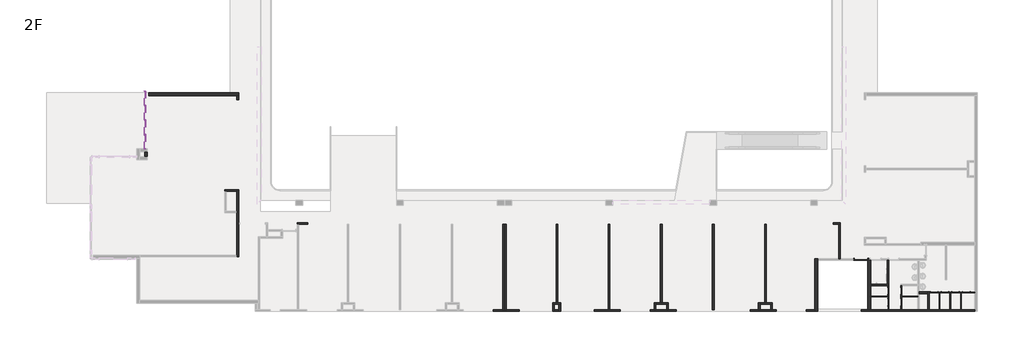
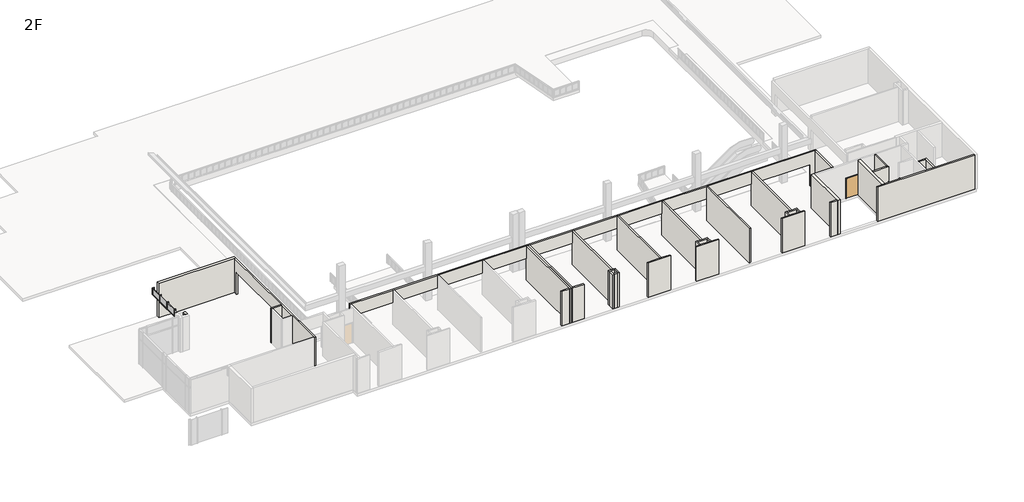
# One storey, part 2 of 6: 44 walls, 9 doors, 9 members, 4 plates.
"""IFC4 building model written with IfcOpenShell, lengths in millimetres."""

from ifc_helpers import new_model, si_unit, frame, origin, place, context, project, spatial, polyline, outline, extrude, faceted_brep, transform, mapped, element, save
from components import m_single_flush_d_1200x2150_085a39eb, m_single_flush_d_600x2100_toilet_partition_8216d307, rectangular_mullion_50_x_150mm_6588f46c, rectangular_mullion_50_x_150mm_0d3281e4, rectangular_mullion_50_x_150mm_457f9466, rectangular_mullion_50_x_150mm_2a846207, rectangular_mullion_50_x_150mm_ab7a2645, system_panel_glazed_67b39806, system_panel_glazed_db628170

model = new_model("IFC4")

# Units and contexts
model_context = context("Model", 3, world=origin())
ifc_project = project(units=[si_unit("LENGTHUNIT", "METRE", prefix="MILLI")], contexts=[model_context])

# Site, building, storey
site = spatial("IfcSite", under=ifc_project)
building = spatial("IfcBuilding", under=site)
storey = spatial("IfcBuildingStorey", under=building, Name="2F", Elevation=8100.0)

# Doors
placement = place(None, origin())
m_single_flush_d_1200x2150_shape = m_single_flush_d_1200x2150_085a39eb(model_context)
element("IfcDoor", 1, ObjectType="M_Single-Flush : D-1200x2150", at=placement, inside=storey, context=model_context, shape_type="MappedRepresentation", body=[
    mapped(m_single_flush_d_1200x2150_shape, transform((32662.4134101, -21228.6148653, 8100.0), x_axis=(1.0, 0.0, 0.0), y_axis=(0.0, 1.0, 0.0), z_axis=(0.0, 0.0, 1.0))),
])
m_single_flush_d_600x2100_toilet_partition_shape = m_single_flush_d_600x2100_toilet_partition_8216d307(model_context)
element("IfcDoor", 2, ObjectType="M_Single-Flush : D-600x2100-toilet-partition", at=placement, inside=storey, context=model_context, shape_type="MappedRepresentation", body=[
    mapped(m_single_flush_d_600x2100_toilet_partition_shape, transform((39137.4134101, -24152.6148653, 8100.0), x_axis=(-1.0, 0.0, 0.0), y_axis=(0.0, -1.0, 0.0), z_axis=(0.0, 0.0, 1.0))),
])
element("IfcDoor", 3, ObjectType="M_Single-Flush : D-600x2100-toilet-partition", at=placement, inside=storey, context=model_context, shape_type="MappedRepresentation", body=[
    mapped(m_single_flush_d_600x2100_toilet_partition_shape, transform((40087.4134101, -24152.6148653, 8100.0), x_axis=(-1.0, 0.0, 0.0), y_axis=(0.0, -1.0, 0.0), z_axis=(0.0, 0.0, 1.0))),
])
element("IfcDoor", 4, ObjectType="M_Single-Flush : D-600x2100-toilet-partition", at=placement, inside=storey, context=model_context, shape_type="MappedRepresentation", body=[
    mapped(m_single_flush_d_600x2100_toilet_partition_shape, transform((41037.4134101, -24152.6148653, 8100.0), x_axis=(-1.0, 0.0, 0.0), y_axis=(0.0, -1.0, 0.0), z_axis=(0.0, 0.0, 1.0))),
])
element("IfcDoor", 5, ObjectType="M_Single-Flush : D-600x2100-toilet-partition", at=placement, inside=storey, context=model_context, shape_type="MappedRepresentation", body=[
    mapped(m_single_flush_d_600x2100_toilet_partition_shape, transform((41987.4134101, -24152.6148653, 8100.0), x_axis=(-1.0, 0.0, 0.0), y_axis=(0.0, -1.0, 0.0), z_axis=(0.0, 0.0, 1.0))),
])
element("IfcDoor", 6, ObjectType="M_Single-Flush : D-600x2100-toilet-partition", at=placement, inside=storey, context=model_context, shape_type="MappedRepresentation", body=[
    mapped(m_single_flush_d_600x2100_toilet_partition_shape, transform((36217.4134101, -24027.6148653, 8100.0), x_axis=(0.0, -1.0, 0.0), y_axis=(1.0, 0.0, 0.0), z_axis=(0.0, 0.0, 1.0))),
])
element("IfcDoor", 7, ObjectType="M_Single-Flush : D-600x2100-toilet-partition", at=placement, inside=storey, context=model_context, shape_type="MappedRepresentation", body=[
    mapped(m_single_flush_d_600x2100_toilet_partition_shape, transform((36217.4134101, -25027.6148653, 8100.0), x_axis=(0.0, -1.0, 0.0), y_axis=(1.0, 0.0, 0.0), z_axis=(0.0, 0.0, 1.0))),
])
element("IfcDoor", 8, ObjectType="M_Single-Flush : D-600x2100-toilet-partition", at=placement, inside=storey, context=model_context, shape_type="MappedRepresentation", body=[
    mapped(m_single_flush_d_600x2100_toilet_partition_shape, transform((35082.4134101, -24027.6148653, 8100.0), x_axis=(0.0, 1.0, 0.0), y_axis=(-1.0, 0.0, 0.0), z_axis=(0.0, 0.0, 1.0))),
])
element("IfcDoor", 9, ObjectType="M_Single-Flush : D-600x2100-toilet-partition", at=placement, inside=storey, context=model_context, shape_type="MappedRepresentation", body=[
    mapped(m_single_flush_d_600x2100_toilet_partition_shape, transform((35082.4134101, -25027.6148653, 8100.0), x_axis=(0.0, 1.0, 0.0), y_axis=(-1.0, 0.0, 0.0), z_axis=(0.0, 0.0, 1.0))),
])

# Members
rectangular_mullion_50_x_150mm_shape = rectangular_mullion_50_x_150mm_6588f46c(model_context)
element("IfcMember", 10, ObjectType="Rectangular Mullion : 50 x 150mm", at=placement, inside=storey, context=model_context, shape_type="MappedRepresentation", body=[
    mapped(rectangular_mullion_50_x_150mm_shape, transform((-30812.5865899, -11451.1148653, 10500.0), x_axis=(0.0, -1.0, 0.0), y_axis=(1.0, 0.0, 0.0), z_axis=(0.0, 0.0, 1.0))),
])
rectangular_mullion_50_x_150mm_2_shape = rectangular_mullion_50_x_150mm_0d3281e4(model_context)
element("IfcMember", 11, ObjectType="Rectangular Mullion : 50 x 150mm", at=placement, inside=storey, context=model_context, shape_type="MappedRepresentation", body=[
    mapped(rectangular_mullion_50_x_150mm_2_shape, transform((-30812.5865899, -6272.6148653, 10500.0), x_axis=(0.0, 1.0, 0.0), y_axis=(1.0, 0.0, 0.0), z_axis=(0.0, 0.0, -1.0))),
])
rectangular_mullion_50_x_150mm_3_shape = rectangular_mullion_50_x_150mm_457f9466(model_context)
element("IfcMember", 12, ObjectType="Rectangular Mullion : 50 x 150mm", at=placement, inside=storey, context=model_context, shape_type="MappedRepresentation", body=[
    mapped(rectangular_mullion_50_x_150mm_3_shape, transform((-30812.5865899, -10181.4898653, 10500.0), x_axis=(0.0, 1.0, 0.0), y_axis=(1.0, 0.0, 0.0), z_axis=(0.0, 0.0, -1.0))),
])
element("IfcMember", 13, ObjectType="Rectangular Mullion : 50 x 150mm", at=placement, inside=storey, context=model_context, shape_type="MappedRepresentation", body=[
    mapped(rectangular_mullion_50_x_150mm_3_shape, transform((-30812.5865899, -8886.8648653, 10500.0), x_axis=(0.0, 1.0, 0.0), y_axis=(1.0, 0.0, 0.0), z_axis=(0.0, 0.0, -1.0))),
])
element("IfcMember", 14, ObjectType="Rectangular Mullion : 50 x 150mm", at=placement, inside=storey, context=model_context, shape_type="MappedRepresentation", body=[
    mapped(rectangular_mullion_50_x_150mm_3_shape, transform((-30812.5865899, -7592.2398653, 10500.0), x_axis=(0.0, 1.0, 0.0), y_axis=(1.0, 0.0, 0.0), z_axis=(0.0, 0.0, -1.0))),
])
rectangular_mullion_50_x_150mm_4_shape = rectangular_mullion_50_x_150mm_2a846207(model_context)
element("IfcMember", 15, ObjectType="Rectangular Mullion : 50 x 150mm", at=placement, inside=storey, context=model_context, shape_type="MappedRepresentation", body=[
    mapped(rectangular_mullion_50_x_150mm_4_shape, transform((-30812.5865899, -8911.8648653, 10500.0), x_axis=(0.0, 0.0, 1.0), y_axis=(1.0, 0.0, 0.0), z_axis=(0.0, 1.0, 0.0))),
])
element("IfcMember", 16, ObjectType="Rectangular Mullion : 50 x 150mm", at=placement, inside=storey, context=model_context, shape_type="MappedRepresentation", body=[
    mapped(rectangular_mullion_50_x_150mm_4_shape, transform((-30812.5865899, -7617.2398653, 10500.0), x_axis=(0.0, 0.0, 1.0), y_axis=(1.0, 0.0, 0.0), z_axis=(0.0, 1.0, 0.0))),
])
element("IfcMember", 17, ObjectType="Rectangular Mullion : 50 x 150mm", at=placement, inside=storey, context=model_context, shape_type="MappedRepresentation", body=[
    mapped(rectangular_mullion_50_x_150mm_4_shape, transform((-30812.5865899, -6322.6148653, 10500.0), x_axis=(0.0, 0.0, 1.0), y_axis=(1.0, 0.0, 0.0), z_axis=(0.0, 1.0, 0.0))),
])
rectangular_mullion_50_x_150mm_5_shape = rectangular_mullion_50_x_150mm_ab7a2645(model_context)
element("IfcMember", 18, ObjectType="Rectangular Mullion : 50 x 150mm", at=placement, inside=storey, context=model_context, shape_type="MappedRepresentation", body=[
    mapped(rectangular_mullion_50_x_150mm_5_shape, transform((-30812.5865899, -10206.4898653, 10500.0), x_axis=(0.0, 0.0, 1.0), y_axis=(1.0, 0.0, 0.0), z_axis=(0.0, 1.0, 0.0))),
])

# Plates
system_panel_glazed_shape = system_panel_glazed_67b39806(model_context)
element("IfcPlate", 19, ObjectType="System Panel : Glazed", at=placement, inside=storey, context=model_context, shape_type="MappedRepresentation", body=[
    mapped(system_panel_glazed_shape, transform((-30812.5865899, -10803.8023653, 10525.0), x_axis=(0.0, 1.0, 0.0), y_axis=(-1.0, 0.0, 0.0), z_axis=(0.0, 0.0, 1.0))),
])
system_panel_glazed_2_shape = system_panel_glazed_db628170(model_context)
element("IfcPlate", 20, ObjectType="System Panel : Glazed", at=placement, inside=storey, context=model_context, shape_type="MappedRepresentation", body=[
    mapped(system_panel_glazed_2_shape, transform((-30812.5865899, -9534.1773653, 10525.0), x_axis=(0.0, 1.0, 0.0), y_axis=(-1.0, 0.0, 0.0), z_axis=(0.0, 0.0, 1.0))),
])
element("IfcPlate", 21, ObjectType="System Panel : Glazed", at=placement, inside=storey, context=model_context, shape_type="MappedRepresentation", body=[
    mapped(system_panel_glazed_2_shape, transform((-30812.5865899, -8239.5523653, 10525.0), x_axis=(0.0, 1.0, 0.0), y_axis=(-1.0, 0.0, 0.0), z_axis=(0.0, 0.0, 1.0))),
])
element("IfcPlate", 22, ObjectType="System Panel : Glazed", at=placement, inside=storey, context=model_context, shape_type="MappedRepresentation", body=[
    mapped(system_panel_glazed_2_shape, transform((-30812.5865899, -6944.9273653, 10525.0), x_axis=(0.0, 1.0, 0.0), y_axis=(-1.0, 0.0, 0.0), z_axis=(0.0, 0.0, 1.0))),
])

# Walls
element("IfcWall", 23, ObjectType="Toilet-partition", at=placement, inside=storey, context=model_context, shape_type="Brep", body=[
    faceted_brep([(41337.4134101, -24177.6148653, 8100.0), (41487.4134101, -24177.6148653, 8100.0), (41537.4134101, -24177.6148653, 8100.0), (41687.4134101, -24177.6148653, 8100.0), (41687.4134101, -24177.6148653, 10200.0), (42287.4134101, -24177.6148653, 10200.0), (42287.4134101, -24177.6148653, 8100.0), (42717.4134101, -24177.6148653, 8100.0), (42717.4134101, -24177.6148653, 10250.0), (41537.4134101, -24177.6148653, 10250.0), (41487.4134101, -24177.6148653, 10250.0), (40587.4134101, -24177.6148653, 10250.0), (40537.4134101, -24177.6148653, 10250.0), (39637.4134101, -24177.6148653, 10250.0), (39587.4134101, -24177.6148653, 10250.0), (38699.4134101, -24177.6148653, 10250.0), (38699.4134101, -24177.6148653, 8100.0), (38837.4134101, -24177.6148653, 8100.0), (38837.4134101, -24177.6148653, 10200.0), (39437.4134101, -24177.6148653, 10200.0), (39437.4134101, -24177.6148653, 8100.0), (39587.4134101, -24177.6148653, 8100.0), (39637.4134101, -24177.6148653, 8100.0), (39787.4134101, -24177.6148653, 8100.0), (39787.4134101, -24177.6148653, 10200.0), (40387.4134101, -24177.6148653, 10200.0), (40387.4134101, -24177.6148653, 8100.0), (40537.4134101, -24177.6148653, 8100.0), (40587.4134101, -24177.6148653, 8100.0), (40737.4134101, -24177.6148653, 8100.0), (40737.4134101, -24177.6148653, 10200.0), (41337.4134101, -24177.6148653, 10200.0), (41687.4134101, -24127.6148653, 10200.0), (41687.4134101, -24127.6148653, 8100.0), (41337.4134101, -24127.6148653, 8100.0), (41337.4134101, -24127.6148653, 10200.0), (40737.4134101, -24127.6148653, 10200.0), (40737.4134101, -24127.6148653, 8100.0), (40387.4134101, -24127.6148653, 8100.0), (40387.4134101, -24127.6148653, 10200.0), (39787.4134101, -24127.6148653, 10200.0), (39787.4134101, -24127.6148653, 8100.0), (39437.4134101, -24127.6148653, 8100.0), (39437.4134101, -24127.6148653, 10200.0), (38837.4134101, -24127.6148653, 10200.0), (38837.4134101, -24127.6148653, 8100.0), (38699.4134101, -24127.6148653, 8100.0), (38699.4134101, -24127.6148653, 10250.0), (42717.4134101, -24127.6148653, 10250.0), (42717.4134101, -24127.6148653, 8100.0), (42287.4134101, -24127.6148653, 8100.0), (42287.4134101, -24127.6148653, 10200.0)], [[[0, 1, 2, 3, 4, 5, 6, 7, 8, 9, 10, 11, 12, 13, 14, 15, 16, 17, 18, 19, 20, 21, 22, 23, 24, 25, 26, 27, 28, 29, 30, 31]], [[32, 33, 34, 35, 36, 37, 38, 39, 40, 41, 42, 43, 44, 45, 46, 47, 48, 49, 50, 51]], [[46, 45, 17, 16]], [[42, 41, 23, 22, 21, 20]], [[38, 37, 29, 28, 27, 26]], [[34, 33, 3, 2, 1, 0]], [[50, 49, 7, 6]], [[15, 14, 13, 12, 11, 10, 9, 8, 48, 47]], [[8, 7, 49, 48]], [[16, 15, 47, 46]], [[18, 17, 45, 44]], [[19, 18, 44, 43]], [[20, 19, 43, 42]], [[24, 23, 41, 40]], [[25, 24, 40, 39]], [[26, 25, 39, 38]], [[30, 29, 37, 36]], [[31, 30, 36, 35]], [[0, 31, 35, 34]], [[4, 3, 33, 32]], [[5, 4, 32, 51]], [[6, 5, 51, 50]]]),
])
element("IfcWall", 24, ObjectType="Toilet-partition", at=placement, inside=storey, context=model_context, shape_type="SweptSolid", body=[
    extrude(outline(polyline([(39587.4134101, -25692.6148653), (39587.4134101, -24177.6148653), (39637.4134101, -24177.6148653), (39637.4134101, -25692.6148653), (39587.4134101, -25692.6148653)])), frame((0.0, 0.0, 8100.0), z_axis=(0.0, 0.0, 1.0), x_axis=(1.0, 0.0, 0.0)), (0.0, 0.0, 1.0), 2150.0),
])
element("IfcWall", 25, ObjectType="Toilet-partition", at=placement, inside=storey, context=model_context, shape_type="SweptSolid", body=[
    extrude(outline(polyline([(40537.4134101, -25692.6148653), (40537.4134101, -24177.6148653), (40587.4134101, -24177.6148653), (40587.4134101, -25692.6148653), (40537.4134101, -25692.6148653)])), frame((0.0, 0.0, 8100.0), z_axis=(0.0, 0.0, 1.0), x_axis=(1.0, 0.0, 0.0)), (0.0, 0.0, 1.0), 2150.0),
])
element("IfcWall", 26, ObjectType="Toilet-partition", at=placement, inside=storey, context=model_context, shape_type="SweptSolid", body=[
    extrude(outline(polyline([(41487.4134101, -25692.6148653), (41487.4134101, -24177.6148653), (41537.4134101, -24177.6148653), (41537.4134101, -25692.6148653), (41487.4134101, -25692.6148653)])), frame((0.0, 0.0, 8100.0), z_axis=(0.0, 0.0, 1.0), x_axis=(1.0, 0.0, 0.0)), (0.0, 0.0, 1.0), 2150.0),
])
element("IfcWall", 27, ObjectType="Toilet-partition", at=placement, inside=storey, context=model_context, shape_type="Brep", body=[
    faceted_brep([(36192.4134101, -25327.6148653, 10200.0), (36192.4134101, -25327.6148653, 8100.0), (36192.4134101, -25692.6148653, 8100.0), (36192.4134101, -25692.6148653, 10250.0), (36192.4134101, -23564.6148653, 10250.0), (36192.4134101, -23564.6148653, 8100.0), (36192.4134101, -23727.6148653, 8100.0), (36192.4134101, -23727.6148653, 10200.0), (36192.4134101, -24327.6148653, 10200.0), (36192.4134101, -24327.6148653, 8100.0), (36192.4134101, -24727.6148653, 8100.0), (36192.4134101, -24727.6148653, 10200.0), (36242.4134101, -25692.6148653, 8100.0), (36242.4134101, -25327.6148653, 8100.0), (36242.4134101, -25327.6148653, 10200.0), (36242.4134101, -24727.6148653, 10200.0), (36242.4134101, -24727.6148653, 8100.0), (36242.4134101, -24552.6148653, 8100.0), (36242.4134101, -24502.6148653, 8100.0), (36242.4134101, -24327.6148653, 8100.0), (36242.4134101, -24327.6148653, 10200.0), (36242.4134101, -23727.6148653, 10200.0), (36242.4134101, -23727.6148653, 8100.0), (36242.4134101, -23564.6148653, 8100.0), (36242.4134101, -23564.6148653, 10250.0), (36242.4134101, -24502.6148653, 10250.0), (36242.4134101, -24552.6148653, 10250.0), (36242.4134101, -25692.6148653, 10250.0)], [[[0, 1, 2, 3, 4, 5, 6, 7, 8, 9, 10, 11]], [[12, 13, 14, 15, 16, 17, 18, 19, 20, 21, 22, 23, 24, 25, 26, 27]], [[2, 1, 13, 12]], [[6, 5, 23, 22]], [[10, 9, 19, 18, 17, 16]], [[4, 3, 27, 26, 25, 24]], [[5, 4, 24, 23]], [[3, 2, 12, 27]], [[20, 19, 9, 8]], [[21, 20, 8, 7]], [[22, 21, 7, 6]], [[14, 13, 1, 0]], [[15, 14, 0, 11]], [[16, 15, 11, 10]]]),
])
element("IfcWall", 28, ObjectType="Toilet-partition", at=placement, inside=storey, context=model_context, shape_type="SweptSolid", body=[
    extrude(outline(polyline([(37692.4134101, -24552.6148653), (36242.4134101, -24552.6148653), (36242.4134101, -24502.6148653), (37692.4134101, -24502.6148653), (37692.4134101, -24552.6148653)])), frame((0.0, 0.0, 8100.0), z_axis=(0.0, 0.0, 1.0), x_axis=(1.0, 0.0, 0.0)), (0.0, 0.0, 1.0), 2150.0),
])
element("IfcWall", 29, ObjectType="Toilet-partition", at=placement, inside=storey, context=model_context, shape_type="Brep", body=[
    faceted_brep([(35057.4134101, -24327.6148653, 8100.0), (35057.4134101, -24502.6148653, 8100.0), (35057.4134101, -24552.6148653, 8100.0), (35057.4134101, -24727.6148653, 8100.0), (35057.4134101, -24727.6148653, 10200.0), (35057.4134101, -25327.6148653, 10200.0), (35057.4134101, -25327.6148653, 8100.0), (35057.4134101, -25692.6148653, 8100.0), (35057.4134101, -25692.6148653, 10250.0), (35057.4134101, -24552.6148653, 10250.0), (35057.4134101, -24502.6148653, 10250.0), (35057.4134101, -23564.6148653, 10250.0), (35057.4134101, -23564.6148653, 8100.0), (35057.4134101, -23727.6148653, 8100.0), (35057.4134101, -23727.6148653, 10200.0), (35057.4134101, -24327.6148653, 10200.0), (35107.4134101, -24727.6148653, 10200.0), (35107.4134101, -24727.6148653, 8100.0), (35107.4134101, -24327.6148653, 8100.0), (35107.4134101, -24327.6148653, 10200.0), (35107.4134101, -23727.6148653, 10200.0), (35107.4134101, -23727.6148653, 8100.0), (35107.4134101, -23564.6148653, 8100.0), (35107.4134101, -23564.6148653, 10250.0), (35107.4134101, -25692.6148653, 10250.0), (35107.4134101, -25692.6148653, 8100.0), (35107.4134101, -25327.6148653, 8100.0), (35107.4134101, -25327.6148653, 10200.0)], [[[0, 1, 2, 3, 4, 5, 6, 7, 8, 9, 10, 11, 12, 13, 14, 15]], [[16, 17, 18, 19, 20, 21, 22, 23, 24, 25, 26, 27]], [[22, 21, 13, 12]], [[18, 17, 3, 2, 1, 0]], [[26, 25, 7, 6]], [[11, 10, 9, 8, 24, 23]], [[12, 11, 23, 22]], [[8, 7, 25, 24]], [[14, 13, 21, 20]], [[15, 14, 20, 19]], [[0, 15, 19, 18]], [[4, 3, 17, 16]], [[5, 4, 16, 27]], [[6, 5, 27, 26]]]),
])
element("IfcWall", 30, ObjectType="Toilet-partition", at=placement, inside=storey, context=model_context, shape_type="SweptSolid", body=[
    extrude(outline(polyline([(33504.4134101, -24502.6148653), (35057.4134101, -24502.6148653), (35057.4134101, -24552.6148653), (33504.4134101, -24552.6148653), (33504.4134101, -24502.6148653)])), frame((0.0, 0.0, 8100.0), z_axis=(0.0, 0.0, 1.0), x_axis=(1.0, 0.0, 0.0)), (0.0, 0.0, 1.0), 2150.0),
])
element("IfcWall", 31, ObjectType="wall-115", at=placement, inside=storey, context=model_context, shape_type="SweptSolid", body=[
    extrude(outline(polyline([(24241.9134101, -18102.6148653), (24241.9134101, -25062.6148653), (24099.9134101, -25062.6148653), (24099.9134101, -18102.6148653), (24241.9134101, -18102.6148653)])), frame((0.0, 0.0, 8100.0), z_axis=(0.0, 0.0, 1.0), x_axis=(1.0, 0.0, 0.0)), (0.0, 0.0, 1.0), 3750.0),
])
element("IfcWall", 32, ObjectType="wall-115", at=placement, inside=storey, context=model_context, shape_type="SweptSolid", body=[
    extrude(outline(polyline([(19626.9134101, -18102.6148653), (19626.9134101, -25707.6148653), (19484.9134101, -25707.6148653), (19484.9134101, -18102.6148653), (19626.9134101, -18102.6148653)])), frame((0.0, 0.0, 8100.0), z_axis=(0.0, 0.0, 1.0), x_axis=(1.0, 0.0, 0.0)), (0.0, 0.0, 1.0), 3750.0),
])
element("IfcWall", 33, ObjectType="wall-115", at=placement, inside=storey, context=model_context, shape_type="Brep", body=[
    faceted_brep([(14469.4134101, -25692.6148653, 8100.0), (14469.4134101, -25204.6148653, 8100.0), (14469.4134101, -25062.6148653, 8100.0), (14469.4134101, -25062.6148653, 11850.0), (14469.4134101, -25204.6148653, 11850.0), (14469.4134101, -25692.6148653, 11850.0), (14327.4134101, -25692.6148653, 8100.0), (14327.4134101, -25692.6148653, 11850.0), (14327.4134101, -25062.6148653, 11850.0), (14327.4134101, -25062.6148653, 8100.0)], [[[0, 1, 2, 3, 4, 5]], [[6, 7, 8, 9]], [[2, 1, 0, 6, 9]], [[5, 4, 3, 8, 7]], [[3, 2, 9, 8]], [[0, 5, 7, 6]]]),
])
element("IfcWall", 34, ObjectType="wall-115", at=placement, inside=storey, context=model_context, shape_type="Brep", body=[
    faceted_brep([(14469.4134101, -25204.6148653, 8100.0), (15415.4134101, -25204.6148653, 8100.0), (15557.4134101, -25204.6148653, 8100.0), (15557.4134101, -25204.6148653, 11850.0), (15415.4134101, -25204.6148653, 11850.0), (14469.4134101, -25204.6148653, 11850.0), (14469.4134101, -25062.6148653, 8100.0), (14469.4134101, -25062.6148653, 11850.0), (14869.9134101, -25062.6148653, 11850.0), (15011.9134101, -25062.6148653, 11850.0), (15557.4134101, -25062.6148653, 11850.0), (15557.4134101, -25062.6148653, 8100.0), (15011.9134101, -25062.6148653, 8100.0), (14869.9134101, -25062.6148653, 8100.0)], [[[0, 1, 2, 3, 4, 5]], [[6, 7, 8, 9, 10, 11, 12, 13]], [[2, 1, 0, 6, 13, 12, 11]], [[5, 4, 3, 10, 9, 8, 7]], [[3, 2, 11, 10]], [[0, 5, 7, 6]]]),
])
element("IfcWall", 35, ObjectType="wall-115", at=placement, inside=storey, context=model_context, shape_type="SweptSolid", body=[
    extrude(outline(polyline([(15415.4134101, -25692.6148653), (15415.4134101, -25204.6148653), (15557.4134101, -25204.6148653), (15557.4134101, -25692.6148653), (15415.4134101, -25692.6148653)])), frame((0.0, 0.0, 8100.0), z_axis=(0.0, 0.0, 1.0), x_axis=(1.0, 0.0, 0.0)), (0.0, 0.0, 1.0), 3750.0),
])
element("IfcWall", 36, ObjectType="wall-115", at=placement, inside=storey, context=model_context, shape_type="SweptSolid", body=[
    extrude(outline(polyline([(15011.9134101, -18102.6148653), (15011.9134101, -25062.6148653), (14869.9134101, -25062.6148653), (14869.9134101, -18102.6148653), (15011.9134101, -18102.6148653)])), frame((0.0, 0.0, 8100.0), z_axis=(0.0, 0.0, 1.0), x_axis=(1.0, 0.0, 0.0)), (0.0, 0.0, 1.0), 3750.0),
])
element("IfcWall", 37, ObjectType="wall-115", at=placement, inside=storey, context=model_context, shape_type="SweptSolid", body=[
    extrude(outline(polyline([(10396.9134101, -18102.6148653), (10396.9134101, -25692.6148653), (10254.9134101, -25692.6148653), (10254.9134101, -18102.6148653), (10396.9134101, -18102.6148653)])), frame((0.0, 0.0, 8100.0), z_axis=(0.0, 0.0, 1.0), x_axis=(1.0, 0.0, 0.0)), (0.0, 0.0, 1.0), 3750.0),
])
element("IfcWall", 38, ObjectType="wall-115", at=placement, inside=storey, context=model_context, shape_type="SweptSolid", body=[
    extrude(outline(polyline([(5781.9134101, -18102.6148653), (5781.9134101, -25062.6148653), (5639.9134101, -25062.6148653), (5639.9134101, -18102.6148653), (5781.9134101, -18102.6148653)])), frame((0.0, 0.0, 8100.0), z_axis=(0.0, 0.0, 1.0), x_axis=(1.0, 0.0, 0.0)), (0.0, 0.0, 1.0), 3750.0),
])
element("IfcWall", 39, ObjectType="wall-115", at=placement, inside=storey, context=model_context, shape_type="Brep", body=[
    faceted_brep([(1034.4134101, -25834.6148653, 8100.0), (1034.4134101, -18102.6148653, 8100.0), (1034.4134101, -18102.6148653, 11850.0), (1034.4134101, -25834.6148653, 11850.0), (892.4134101, -25834.6148653, 8100.0), (892.4134101, -25834.6148653, 11850.0), (892.4134101, -25692.6148653, 11850.0), (892.4134101, -18102.6148653, 11850.0), (892.4134101, -18102.6148653, 8100.0), (892.4134101, -25692.6148653, 8100.0)], [[[0, 1, 2, 3]], [[4, 5, 6, 7, 8, 9]], [[1, 0, 4, 9, 8]], [[3, 2, 7, 6, 5]], [[0, 3, 5, 4]], [[2, 1, 8, 7]]]),
])
element("IfcWall", 40, ObjectType="wall-115", at=placement, inside=storey, context=model_context, shape_type="Brep", body=[
    faceted_brep([(33504.4134101, -23564.6148653, 8100.0), (35057.4134101, -23564.6148653, 8100.0), (35107.4134101, -23564.6148653, 8100.0), (35119.4134101, -23564.6148653, 8100.0), (35119.4134101, -23564.6148653, 11850.0), (33504.4134101, -23564.6148653, 11850.0), (33504.4134101, -23422.6148653, 8100.0), (33504.4134101, -23422.6148653, 11850.0), (34977.4134101, -23422.6148653, 11850.0), (35119.4134101, -23422.6148653, 11850.0), (35119.4134101, -23422.6148653, 8100.0), (34977.4134101, -23422.6148653, 8100.0)], [[[0, 1, 2, 3, 4, 5]], [[6, 7, 8, 9, 10, 11]], [[3, 2, 1, 0, 6, 11, 10]], [[5, 4, 9, 8, 7]], [[0, 5, 7, 6]], [[4, 3, 10, 9]]]),
])
element("IfcWall", 41, ObjectType="wall-115", at=placement, inside=storey, context=model_context, shape_type="Brep", body=[
    faceted_brep([(35119.4134101, -23422.6148653, 8100.0), (35119.4134101, -21299.6148653, 8100.0), (35119.4134101, -21299.6148653, 11850.0), (35119.4134101, -23422.6148653, 11850.0), (34977.4134101, -23422.6148653, 8100.0), (34977.4134101, -23422.6148653, 11850.0), (34977.4134101, -21299.6148653, 11850.0), (34977.4134101, -21299.6148653, 8100.0), (35107.4134101, -21299.6148653, 8100.0)], [[[0, 1, 2, 3]], [[4, 5, 6, 7]], [[1, 0, 4, 7, 8]], [[3, 2, 6, 5]], [[2, 1, 8, 7, 6]], [[0, 3, 5, 4]]]),
])
element("IfcWall", 42, ObjectType="wall-115", at=placement, inside=storey, context=model_context, shape_type="Brep", body=[
    faceted_brep([(38699.4134101, -25692.6148653, 8100.0), (38699.4134101, -24177.6148653, 8100.0), (38699.4134101, -24127.6148653, 8100.0), (38699.4134101, -24115.6148653, 8100.0), (38699.4134101, -24115.6148653, 11850.0), (38699.4134101, -25692.6148653, 11850.0), (38557.4134101, -25692.6148653, 8100.0), (38557.4134101, -25692.6148653, 11850.0), (38557.4134101, -24257.6148653, 11850.0), (38557.4134101, -24115.6148653, 11850.0), (38557.4134101, -24115.6148653, 8100.0), (38557.4134101, -24257.6148653, 8100.0)], [[[0, 1, 2, 3, 4, 5]], [[6, 7, 8, 9, 10, 11]], [[3, 2, 1, 0, 6, 11, 10]], [[5, 4, 9, 8, 7]], [[4, 3, 10, 9]], [[0, 5, 7, 6]]]),
])
element("IfcWall", 43, ObjectType="wall-115", at=placement, inside=storey, context=model_context, shape_type="SweptSolid", body=[
    extrude(outline(polyline([(37834.4134101, -24115.6148653), (38557.4134101, -24115.6148653), (38557.4134101, -24257.6148653), (37834.4134101, -24257.6148653), (37834.4134101, -24115.6148653)])), frame((0.0, 0.0, 8100.0), z_axis=(0.0, 0.0, 1.0), x_axis=(1.0, 0.0, 0.0)), (0.0, 0.0, 1.0), 3750.0),
])
element("IfcWall", 44, ObjectType="wall-115", at=placement, inside=storey, context=model_context, shape_type="Brep", body=[
    faceted_brep([(-22667.5865898, -6717.6148653, 8100.0), (-22667.5865898, -7072.6310718, 8100.0), (-22667.5865898, -7072.6310718, 10500.0), (-22667.5865898, -15072.6310718, 10500.0), (-22667.5865898, -15072.6310718, 8100.0), (-22667.5865898, -15199.6310718, 8100.0), (-22667.5865898, -16972.6148653, 8100.0), (-22667.5865898, -17114.6148653, 8100.0), (-22667.5865898, -20852.6148653, 8100.0), (-22667.5865898, -20994.6148653, 8100.0), (-22667.5865898, -20994.6148653, 11850.0), (-22667.5865898, -20852.6148653, 11850.0), (-22667.5865898, -17114.6148653, 11850.0), (-22667.5865898, -16972.6148653, 11850.0), (-22667.5865898, -15199.6310718, 11850.0), (-22667.5865898, -15057.6310718, 11850.0), (-22667.5865898, -6717.6148653, 11850.0), (-22525.5865898, -7072.6310718, 10500.0), (-22525.5865898, -7072.6310718, 8100.0), (-22525.5865898, -6717.6148653, 8100.0), (-22525.5865898, -6717.6148653, 11850.0), (-22525.5865898, -17960.6148653, 11850.0), (-22525.5865898, -18102.6148653, 11850.0), (-22525.5865898, -20994.6148653, 11850.0), (-22525.5865898, -20994.6148653, 8100.0), (-22525.5865898, -18102.6148653, 8100.0), (-22525.5865898, -17960.6148653, 8100.0), (-22525.5865898, -15072.6310718, 8100.0), (-22525.5865898, -15072.6310718, 10500.0)], [[[0, 1, 2, 3, 4, 5, 6, 7, 8, 9, 10, 11, 12, 13, 14, 15, 16]], [[17, 18, 19, 20, 21, 22, 23, 24, 25, 26, 27, 28]], [[19, 18, 1, 0]], [[27, 26, 25, 24, 9, 8, 7, 6, 5, 4]], [[16, 15, 14, 13, 12, 11, 10, 23, 22, 21, 20]], [[10, 9, 24, 23]], [[0, 16, 20, 19]], [[3, 2, 17, 28]], [[4, 3, 28, 27]], [[2, 1, 18, 17]]]),
])
element("IfcWall", 45, ObjectType="wall-115", at=placement, inside=storey, context=model_context, shape_type="Brep", body=[
    faceted_brep([(-22667.5865898, -15057.6310718, 8100.0), (-23747.5865898, -15057.6310718, 8100.0), (-23747.5865898, -15057.6310718, 11850.0), (-22667.5865898, -15057.6310718, 11850.0), (-22667.5865898, -15199.6310718, 8100.0), (-22667.5865898, -15199.6310718, 11850.0), (-23605.5865898, -15199.6310718, 11850.0), (-23747.5865898, -15199.6310718, 11850.0), (-23747.5865898, -15199.6310718, 8100.0), (-23605.5865898, -15199.6310718, 8100.0), (-22667.5865898, -15072.6310718, 8100.0)], [[[0, 1, 2, 3]], [[4, 5, 6, 7, 8, 9]], [[1, 0, 10, 4, 9, 8]], [[3, 2, 7, 6, 5]], [[2, 1, 8, 7]], [[0, 3, 5, 4, 10]]]),
])
element("IfcWall", 46, ObjectType="wall-115", at=placement, inside=storey, context=model_context, shape_type="Brep", body=[
    faceted_brep([(23699.4134101, -25692.6148653, 8100.0), (23699.4134101, -25204.6148653, 8100.0), (23699.4134101, -25062.6148653, 8100.0), (23699.4134101, -25062.6148653, 11850.0), (23699.4134101, -25204.6148653, 11850.0), (23699.4134101, -25692.6148653, 11850.0), (23557.4134101, -25692.6148653, 8100.0), (23557.4134101, -25692.6148653, 11850.0), (23557.4134101, -25062.6148653, 11850.0), (23557.4134101, -25062.6148653, 8100.0)], [[[0, 1, 2, 3, 4, 5]], [[6, 7, 8, 9]], [[2, 1, 0, 6, 9]], [[5, 4, 3, 8, 7]], [[3, 2, 9, 8]], [[0, 5, 7, 6]]]),
])
element("IfcWall", 47, ObjectType="wall-115", at=placement, inside=storey, context=model_context, shape_type="Brep", body=[
    faceted_brep([(23699.4134101, -25204.6148653, 8100.0), (24645.4134101, -25204.6148653, 8100.0), (24787.4134101, -25204.6148653, 8100.0), (24787.4134101, -25204.6148653, 11850.0), (24645.4134101, -25204.6148653, 11850.0), (23699.4134101, -25204.6148653, 11850.0), (23699.4134101, -25062.6148653, 8100.0), (23699.4134101, -25062.6148653, 11850.0), (24099.9134101, -25062.6148653, 11850.0), (24241.9134101, -25062.6148653, 11850.0), (24787.4134101, -25062.6148653, 11850.0), (24787.4134101, -25062.6148653, 8100.0), (24241.9134101, -25062.6148653, 8100.0), (24099.9134101, -25062.6148653, 8100.0)], [[[0, 1, 2, 3, 4, 5]], [[6, 7, 8, 9, 10, 11, 12, 13]], [[2, 1, 0, 6, 13, 12, 11]], [[5, 4, 3, 10, 9, 8, 7]], [[3, 2, 11, 10]], [[0, 5, 7, 6]]]),
])
element("IfcWall", 48, ObjectType="wall-115", at=placement, inside=storey, context=model_context, shape_type="SweptSolid", body=[
    extrude(outline(polyline([(24645.4134101, -25692.6148653), (24645.4134101, -25204.6148653), (24787.4134101, -25204.6148653), (24787.4134101, -25692.6148653), (24645.4134101, -25692.6148653)])), frame((0.0, 0.0, 8100.0), z_axis=(0.0, 0.0, 1.0), x_axis=(1.0, 0.0, 0.0)), (0.0, 0.0, 1.0), 3750.0),
])
element("IfcWall", 49, ObjectType="wall-115", at=placement, inside=storey, context=model_context, shape_type="Brep", body=[
    faceted_brep([(5334.9134101, -25204.6148653, 8100.0), (5476.9134101, -25204.6148653, 8100.0), (5872.9134101, -25204.6148653, 8100.0), (6014.9134101, -25204.6148653, 8100.0), (6014.9134101, -25204.6148653, 11850.0), (5872.9134101, -25204.6148653, 11850.0), (5476.9134101, -25204.6148653, 11850.0), (5334.9134101, -25204.6148653, 11850.0), (5334.9134101, -25062.6148653, 8100.0), (5334.9134101, -25062.6148653, 11850.0), (5639.9134101, -25062.6148653, 11850.0), (5781.9134101, -25062.6148653, 11850.0), (6014.9134101, -25062.6148653, 11850.0), (6014.9134101, -25062.6148653, 8100.0), (5781.9134101, -25062.6148653, 8100.0), (5639.9134101, -25062.6148653, 8100.0)], [[[0, 1, 2, 3, 4, 5, 6, 7]], [[8, 9, 10, 11, 12, 13, 14, 15]], [[3, 2, 1, 0, 8, 15, 14, 13]], [[7, 6, 5, 4, 12, 11, 10, 9]], [[0, 7, 9, 8]], [[4, 3, 13, 12]]]),
])
element("IfcWall", 50, ObjectType="wall-115", at=placement, inside=storey, context=model_context, shape_type="Brep", body=[
    faceted_brep([(1224.4134101, -25834.6148653, 8100.0), (1224.4134101, -25692.6148653, 8100.0), (1224.4134101, -18102.6148653, 8100.0), (1224.4134101, -18102.6148653, 11850.0), (1224.4134101, -25692.6148653, 11850.0), (1224.4134101, -25834.6148653, 11850.0), (1082.4134101, -25834.6148653, 8100.0), (1082.4134101, -25834.6148653, 11850.0), (1082.4134101, -18102.6148653, 11850.0), (1082.4134101, -18102.6148653, 8100.0)], [[[0, 1, 2, 3, 4, 5]], [[6, 7, 8, 9]], [[2, 1, 0, 6, 9]], [[5, 4, 3, 8, 7]], [[0, 5, 7, 6]], [[3, 2, 9, 8]]]),
])
element("IfcWall", 51, ObjectType="wall-115", at=placement, inside=storey, context=model_context, shape_type="SweptSolid", body=[
    extrude(outline(polyline([(30799.4134101, -18102.6148653), (30799.4134101, -21157.6148653), (30657.4134101, -21157.6148653), (30657.4134101, -18102.6148653), (30799.4134101, -18102.6148653)])), frame((0.0, 0.0, 8100.0), z_axis=(0.0, 0.0, 1.0), x_axis=(1.0, 0.0, 0.0)), (0.0, 0.0, 1.0), 3750.0),
])
element("IfcWall", 52, ObjectType="wall-115", at=placement, inside=storey, context=model_context, shape_type="Brep", body=[
    faceted_brep([(30799.4134101, -18102.6148653, 11850.0), (30657.4134101, -18102.6148653, 11850.0), (24241.9134101, -18102.6148653, 11850.0), (24099.9134101, -18102.6148653, 11850.0), (19626.9134101, -18102.6148653, 11850.0), (19484.9134101, -18102.6148653, 11850.0), (15011.9134101, -18102.6148653, 11850.0), (14869.9134101, -18102.6148653, 11850.0), (10396.9134101, -18102.6148653, 11850.0), (10254.9134101, -18102.6148653, 11850.0), (5781.9134101, -18102.6148653, 11850.0), (5639.9134101, -18102.6148653, 11850.0), (1224.4134101, -18102.6148653, 11850.0), (1082.4134101, -18102.6148653, 11850.0), (1034.4134101, -18102.6148653, 11850.0), (892.4134101, -18102.6148653, 11850.0), (-3523.0865899, -18102.6148653, 11850.0), (-3665.0865899, -18102.6148653, 11850.0), (-8138.0865899, -18102.6148653, 11850.0), (-8280.0865899, -18102.6148653, 11850.0), (-12753.0865899, -18102.6148653, 11850.0), (-12895.0865899, -18102.6148653, 11850.0), (-17192.5865899, -18102.6148653, 11850.0), (-17334.5865899, -18102.6148653, 11850.0), (-17334.5865899, -18102.6148653, 8100.0), (-17192.5865899, -18102.6148653, 8100.0), (-16394.2770689, -18102.6148653, 8100.0), (-16394.2770689, -18102.6148653, 10500.0), (30187.4134101, -18102.6148653, 10500.0), (30187.4134101, -18102.6148653, 8100.0), (30657.4134101, -18102.6148653, 8100.0), (30799.4134101, -18102.6148653, 8100.0), (-17334.5865899, -17960.6148653, 11850.0), (30799.4134101, -17960.6148653, 11850.0), (30799.4134101, -17960.6148653, 8100.0), (30187.4134101, -17960.6148653, 8100.0), (30187.4134101, -17960.6148653, 10500.0), (-16394.2770689, -17960.6148653, 10500.0), (-16394.2770689, -17960.6148653, 8100.0), (-17334.5865899, -17960.6148653, 8100.0)], [[[0, 1, 2, 3, 4, 5, 6, 7, 8, 9, 10, 11, 12, 13, 14, 15, 16, 17, 18, 19, 20, 21, 22, 23, 24, 25, 26, 27, 28, 29, 30, 31]], [[32, 33, 34, 35, 36, 37, 38, 39]], [[34, 31, 30, 29, 35]], [[24, 39, 38, 26, 25]], [[23, 22, 21, 20, 19, 18, 17, 16, 15, 14, 13, 12, 11, 10, 9, 8, 7, 6, 5, 4, 3, 2, 1, 0, 33, 32]], [[0, 31, 34, 33]], [[24, 23, 32, 39]], [[27, 37, 36, 28]], [[37, 27, 26, 38]], [[28, 36, 35, 29]]]),
])
element("IfcWall", 53, ObjectType="wall-115", at=placement, inside=storey, context=model_context, shape_type="Brep", body=[
    faceted_brep([(13967.4134101, -25834.6148653, 8100.0), (16287.4134101, -25834.6148653, 8100.0), (16287.4134101, -25834.6148653, 11850.0), (13967.4134101, -25834.6148653, 11850.0), (13967.4134101, -25692.6148653, 8100.0), (13967.4134101, -25692.6148653, 11850.0), (14327.4134101, -25692.6148653, 11850.0), (14469.4134101, -25692.6148653, 11850.0), (15415.4134101, -25692.6148653, 11850.0), (15557.4134101, -25692.6148653, 11850.0), (16287.4134101, -25692.6148653, 11850.0), (16287.4134101, -25692.6148653, 8100.0), (15557.4134101, -25692.6148653, 8100.0), (15415.4134101, -25692.6148653, 8100.0), (14469.4134101, -25692.6148653, 8100.0), (14327.4134101, -25692.6148653, 8100.0)], [[[0, 1, 2, 3]], [[4, 5, 6, 7, 8, 9, 10, 11, 12, 13, 14, 15]], [[1, 0, 4, 15, 14, 13, 12, 11]], [[2, 1, 11, 10]], [[3, 2, 10, 9, 8, 7, 6, 5]], [[0, 3, 5, 4]]]),
])
element("IfcWall", 54, ObjectType="wall-115", at=placement, inside=storey, context=model_context, shape_type="Brep", body=[
    faceted_brep([(22827.4134101, -25834.6148653, 8100.0), (25147.4134101, -25834.6148653, 8100.0), (25147.4134101, -25834.6148653, 11850.0), (22827.4134101, -25834.6148653, 11850.0), (22827.4134101, -25692.6148653, 8100.0), (22827.4134101, -25692.6148653, 11850.0), (23557.4134101, -25692.6148653, 11850.0), (23699.4134101, -25692.6148653, 11850.0), (24645.4134101, -25692.6148653, 11850.0), (24787.4134101, -25692.6148653, 11850.0), (25147.4134101, -25692.6148653, 11850.0), (25147.4134101, -25692.6148653, 8100.0), (24787.4134101, -25692.6148653, 8100.0), (24645.4134101, -25692.6148653, 8100.0), (23699.4134101, -25692.6148653, 8100.0), (23557.4134101, -25692.6148653, 8100.0)], [[[0, 1, 2, 3]], [[4, 5, 6, 7, 8, 9, 10, 11, 12, 13, 14, 15]], [[1, 0, 4, 15, 14, 13, 12, 11]], [[2, 1, 11, 10]], [[3, 2, 10, 9, 8, 7, 6, 5]], [[0, 3, 5, 4]]]),
])
element("IfcWall", 55, ObjectType="wall-115", at=placement, inside=storey, context=model_context, shape_type="SweptSolid", body=[
    extrude(outline(polyline([(892.4134101, -25834.6148653), (47.4134101, -25834.6148653), (47.4134101, -25692.6148653), (892.4134101, -25692.6148653), (892.4134101, -25834.6148653)])), frame((0.0, 0.0, 8100.0), z_axis=(0.0, 0.0, 1.0), x_axis=(1.0, 0.0, 0.0)), (0.0, 0.0, 1.0), 3750.0),
])
element("IfcWall", 56, ObjectType="wall-115", at=placement, inside=storey, context=model_context, shape_type="SweptSolid", body=[
    extrude(outline(polyline([(1224.4134101, -25692.6148653), (2367.4134101, -25692.6148653), (2367.4134101, -25834.6148653), (1224.4134101, -25834.6148653), (1224.4134101, -25692.6148653)])), frame((0.0, 0.0, 8100.0), z_axis=(0.0, 0.0, 1.0), x_axis=(1.0, 0.0, 0.0)), (0.0, 0.0, 1.0), 3750.0),
])
element("IfcWall", 57, ObjectType="wall-115", at=placement, inside=storey, context=model_context, shape_type="Brep", body=[
    faceted_brep([(11302.4134101, -25692.6148653, 8100.0), (10396.9134101, -25692.6148653, 8100.0), (10254.9134101, -25692.6148653, 8100.0), (8982.4134101, -25692.6148653, 8100.0), (8982.4134101, -25692.6148653, 11850.0), (10254.9134101, -25692.6148653, 11850.0), (10396.9134101, -25692.6148653, 11850.0), (11302.4134101, -25692.6148653, 11850.0), (11302.4134101, -25834.6148653, 8100.0), (11302.4134101, -25834.6148653, 11850.0), (8982.4134101, -25834.6148653, 11850.0), (8982.4134101, -25834.6148653, 8100.0)], [[[0, 1, 2, 3, 4, 5, 6, 7]], [[8, 9, 10, 11]], [[3, 2, 1, 0, 8, 11]], [[4, 3, 11, 10]], [[7, 6, 5, 4, 10, 9]], [[0, 7, 9, 8]]]),
])
element("IfcWall", 58, ObjectType="wall-115", at=placement, inside=storey, context=model_context, shape_type="SweptSolid", body=[
    extrude(outline(polyline([(28542.4134101, -25834.6148653), (27812.4134101, -25834.6148653), (27812.4134101, -25692.6148653), (28542.4134101, -25692.6148653), (28542.4134101, -25834.6148653)])), frame((0.0, 0.0, 8100.0), z_axis=(0.0, 0.0, 1.0), x_axis=(1.0, 0.0, 0.0)), (0.0, 0.0, 1.0), 3750.0),
])
element("IfcWall", 59, ObjectType="wall-115", at=placement, inside=storey, context=model_context, shape_type="Brep", body=[
    faceted_brep([(5476.9134101, -25834.6148653, 8100.0), (5476.9134101, -25692.6148653, 8100.0), (5476.9134101, -25204.6148653, 8100.0), (5476.9134101, -25204.6148653, 11850.0), (5476.9134101, -25692.6148653, 11850.0), (5476.9134101, -25834.6148653, 11850.0), (5334.9134101, -25834.6148653, 8100.0), (5334.9134101, -25834.6148653, 11850.0), (5334.9134101, -25204.6148653, 11850.0), (5334.9134101, -25204.6148653, 8100.0)], [[[0, 1, 2, 3, 4, 5]], [[6, 7, 8, 9]], [[2, 1, 0, 6, 9]], [[5, 4, 3, 8, 7]], [[0, 5, 7, 6]], [[3, 2, 9, 8]]]),
])
element("IfcWall", 60, ObjectType="wall-115", at=placement, inside=storey, context=model_context, shape_type="Brep", body=[
    faceted_brep([(5872.9134101, -25204.6148653, 8100.0), (5872.9134101, -25692.6148653, 8100.0), (5872.9134101, -25834.6148653, 8100.0), (5872.9134101, -25834.6148653, 11850.0), (5872.9134101, -25692.6148653, 11850.0), (5872.9134101, -25204.6148653, 11850.0), (6014.9134101, -25204.6148653, 8100.0), (6014.9134101, -25204.6148653, 11850.0), (6014.9134101, -25834.6148653, 11850.0), (6014.9134101, -25834.6148653, 8100.0)], [[[0, 1, 2, 3, 4, 5]], [[6, 7, 8, 9]], [[2, 1, 0, 6, 9]], [[5, 4, 3, 8, 7]], [[3, 2, 9, 8]], [[0, 5, 7, 6]]]),
])
element("IfcWall", 61, ObjectType="wall-115", at=placement, inside=storey, context=model_context, shape_type="SweptSolid", body=[
    extrude(outline(polyline([(5872.9134101, -25834.6148653), (5476.9134101, -25834.6148653), (5476.9134101, -25692.6148653), (5872.9134101, -25692.6148653), (5872.9134101, -25834.6148653)])), frame((0.0, 0.0, 8100.0), z_axis=(0.0, 0.0, 1.0), x_axis=(1.0, 0.0, 0.0)), (0.0, 0.0, 1.0), 3750.0),
])
element("IfcWall", 62, ObjectType="wall-115", at=placement, inside=storey, context=model_context, shape_type="Brep", body=[
    faceted_brep([(32662.4134101, -25834.6148653, 8100.0), (42717.4134101, -25834.6148653, 8100.0), (42717.4134101, -25834.6148653, 11850.0), (32662.4134101, -25834.6148653, 11850.0), (32662.4134101, -25692.6148653, 8100.0), (32662.4134101, -25692.6148653, 11850.0), (33247.4134101, -25692.6148653, 11850.0), (33504.4134101, -25692.6148653, 11850.0), (37692.4134101, -25692.6148653, 11850.0), (37834.4134101, -25692.6148653, 11850.0), (38557.4134101, -25692.6148653, 11850.0), (38699.4134101, -25692.6148653, 11850.0), (42717.4134101, -25692.6148653, 11850.0), (42717.4134101, -25692.6148653, 8100.0), (41537.4134101, -25692.6148653, 8100.0), (41487.4134101, -25692.6148653, 8100.0), (40587.4134101, -25692.6148653, 8100.0), (40537.4134101, -25692.6148653, 8100.0), (39637.4134101, -25692.6148653, 8100.0), (39587.4134101, -25692.6148653, 8100.0), (38699.4134101, -25692.6148653, 8100.0), (38557.4134101, -25692.6148653, 8100.0), (37834.4134101, -25692.6148653, 8100.0), (37692.4134101, -25692.6148653, 8100.0), (36242.4134101, -25692.6148653, 8100.0), (36192.4134101, -25692.6148653, 8100.0), (35107.4134101, -25692.6148653, 8100.0), (35057.4134101, -25692.6148653, 8100.0), (33504.4134101, -25692.6148653, 8100.0), (33247.4134101, -25692.6148653, 8100.0)], [[[0, 1, 2, 3]], [[4, 5, 6, 7, 8, 9, 10, 11, 12, 13, 14, 15, 16, 17, 18, 19, 20, 21, 22, 23, 24, 25, 26, 27, 28, 29]], [[1, 0, 4, 29, 28, 27, 26, 25, 24, 23, 22, 21, 20, 19, 18, 17, 16, 15, 14, 13]], [[3, 2, 12, 11, 10, 9, 8, 7, 6, 5]], [[0, 3, 5, 4]], [[2, 1, 13, 12]]]),
])
element("IfcWall", 63, ObjectType="wall-230", at=placement, inside=storey, context=model_context, shape_type="Brep", body=[
    faceted_brep([(33504.4134101, -25692.6148653, 8100.0), (33504.4134101, -24552.6148653, 8100.0), (33504.4134101, -24502.6148653, 8100.0), (33504.4134101, -23564.6148653, 8100.0), (33504.4134101, -23422.6148653, 8100.0), (33504.4134101, -21299.6148653, 8100.0), (33504.4134101, -21299.6148653, 11850.0), (33504.4134101, -23422.6148653, 11850.0), (33504.4134101, -23564.6148653, 11850.0), (33504.4134101, -25692.6148653, 11850.0), (33247.4134101, -25692.6148653, 8100.0), (33247.4134101, -25692.6148653, 11850.0), (33247.4134101, -21299.6148653, 11850.0), (33247.4134101, -21299.6148653, 8100.0), (33262.4134101, -21299.6148653, 8100.0), (33492.4134101, -21299.6148653, 8100.0)], [[[0, 1, 2, 3, 4, 5, 6, 7, 8, 9]], [[10, 11, 12, 13]], [[5, 4, 3, 2, 1, 0, 10, 13, 14, 15]], [[9, 8, 7, 6, 12, 11]], [[6, 5, 15, 14, 13, 12]], [[0, 9, 11, 10]]]),
])
element("IfcWall", 64, ObjectType="wall-230", at=placement, inside=storey, context=model_context, shape_type="Brep", body=[
    faceted_brep([(28799.4134101, -25834.6148653, 8100.0), (28799.4134101, -21299.6148653, 8100.0), (28799.4134101, -21157.6148653, 8100.0), (28799.4134101, -21157.6148653, 11850.0), (28799.4134101, -21299.6148653, 11850.0), (28799.4134101, -25834.6148653, 11850.0), (28542.4134101, -25834.6148653, 8100.0), (28542.4134101, -25834.6148653, 11850.0), (28542.4134101, -25692.6148653, 11850.0), (28542.4134101, -21157.6148653, 11850.0), (28542.4134101, -21157.6148653, 8100.0), (28542.4134101, -25692.6148653, 8100.0)], [[[0, 1, 2, 3, 4, 5]], [[6, 7, 8, 9, 10, 11]], [[2, 1, 0, 6, 11, 10]], [[5, 4, 3, 9, 8, 7]], [[3, 2, 10, 9]], [[0, 5, 7, 6]]]),
])
element("IfcWall", 65, ObjectType="wall-230", at=placement, inside=storey, context=model_context, shape_type="Brep", body=[
    faceted_brep([(-22525.5865898, -6460.6148653, 8100.0), (-22667.5865898, -6460.6148653, 8100.0), (-30492.5865899, -6460.6148653, 8100.0), (-30492.5865899, -6460.6148653, 11850.0), (-22525.5865898, -6460.6148653, 11850.0), (-22525.5865898, -6717.6148653, 8100.0), (-22525.5865898, -6717.6148653, 11850.0), (-22667.5865898, -6717.6148653, 11850.0), (-30492.5865899, -6717.6148653, 11850.0), (-30492.5865899, -6717.6148653, 8100.0), (-22667.5865898, -6717.6148653, 8100.0)], [[[0, 1, 2, 3, 4]], [[5, 6, 7, 8, 9, 10]], [[2, 1, 0, 5, 10, 9]], [[4, 3, 8, 7, 6]], [[0, 4, 6, 5]], [[3, 2, 9, 8]]]),
])
element("IfcWall", 66, ObjectType="wall-230", at=placement, inside=storey, context=model_context, shape_type="SweptSolid", body=[
    extrude(outline(polyline([(-30607.5865899, -11694.6148653), (-30607.5865899, -12122.6148653), (-30864.5865899, -12122.6148653), (-30864.5865899, -11694.6148653), (-30607.5865899, -11694.6148653)])), frame((0.0, 0.0, 8100.0), z_axis=(0.0, 0.0, 1.0), x_axis=(1.0, 0.0, 0.0)), (0.0, 0.0, 1.0), 3750.0),
])

save(model, "model.ifc")
